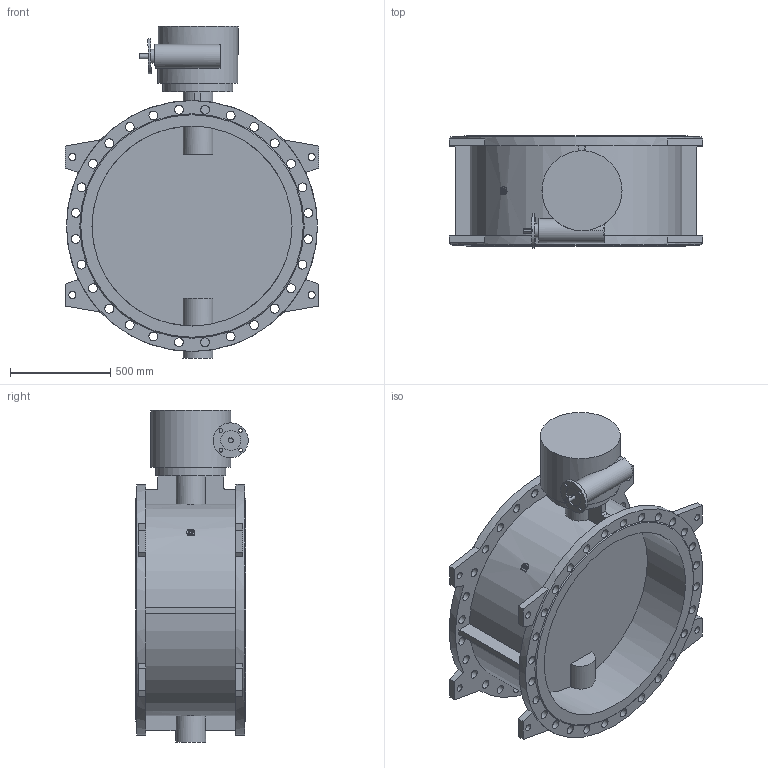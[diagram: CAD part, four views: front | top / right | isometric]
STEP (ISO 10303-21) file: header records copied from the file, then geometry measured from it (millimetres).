
FILE_DESCRIPTION(('STEP AP203'), '1');
FILE_NAME('Çàòâîð 023F.Z DN1000 PN16_ð-ð_ôë', '', ('UNSPECIFIED'), ('UNSPECIFIED'), 'ASCON STEP Converter 1.6', 'ASCON Math Kernel', '');
FILE_SCHEMA(('CONFIG_CONTROL_DESIGN'));
Length unit declared in the file: millimetre
Bounding box: 1266 x 562.5 x 1660 mm (x, y, z)
Volume: 203123010.6 mm3; surface area: 8153720.2 mm2
Topology: 1 solids, 1 shells, 223 faces, 572 edges, 378 vertices
Faces by surface type: cylinder 114, plane 107, cone 2
Full cylindrical faces by diameter (mm): 18 x12, 23 x8, 24 x1, 35 x8, 44 x56, 70 x1, 100 x1, 120 x1, 150 x1, 175 x1, 350 x1, 400 x1, 1000 x2, 1255 x2
Entity records: 9478 total; most frequent: CARTESIAN_POINT 2171, DIRECTION 1149, ORIENTED_EDGE 940, EDGE_LOOP 485, AXIS2_PLACEMENT_3D 475, EDGE_CURVE 470, VERTEX_POINT 377, FACE_BOUND 298
